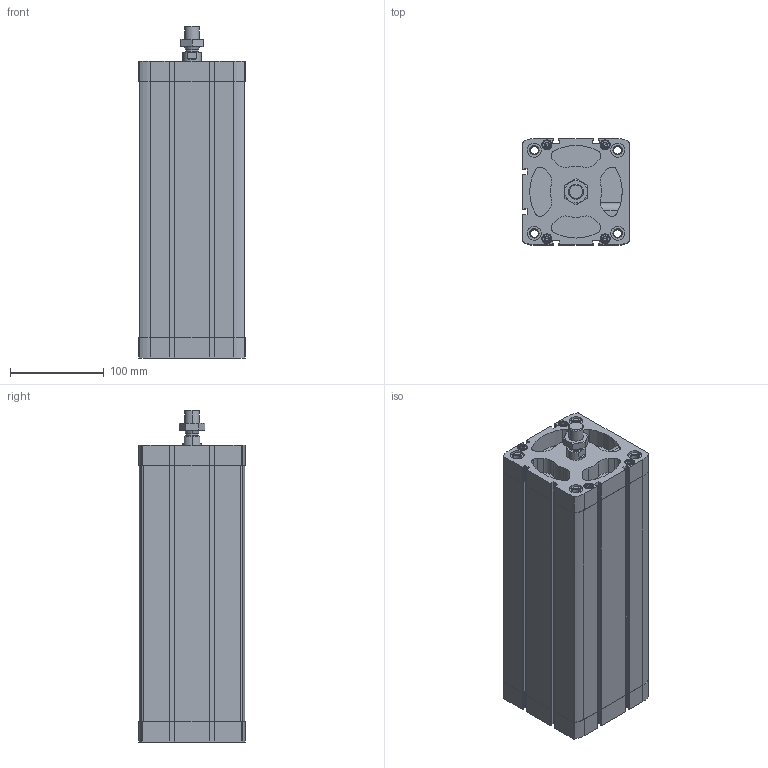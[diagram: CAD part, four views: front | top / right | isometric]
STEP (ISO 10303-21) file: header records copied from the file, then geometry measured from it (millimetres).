
FILE_DESCRIPTION (( 'STEP AP203' ), '1' );
FILE_NAME ('CCN100-250M.STEP', '2020-06-05T18:09:19', ( '' ), ( '' ), 'SwSTEP 2.0', 'SolidWorks 2019', '' );
FILE_SCHEMA (( 'CONFIG_CONTROL_DESIGN' ));
Length unit declared in the file: millimetre
Products named in the file (1): CCN100-250M
Bounding box: 113.5 x 113.5 x 354.8 mm (x, y, z)
Volume: 1877360.4 mm3; surface area: 393019.4 mm2
Topology: 3 solids, 3 shells, 648 faces, 1673 edges, 1068 vertices
Faces by surface type: plane 292, cylinder 272, cone 80, torus 4
Entity records: 21246 total; most frequent: CARTESIAN_POINT 4984, DIRECTION 3541, ORIENTED_EDGE 3314, EDGE_CURVE 1657, AXIS2_PLACEMENT_3D 1319, VERTEX_POINT 1068, VECTOR 903, LINE 903
